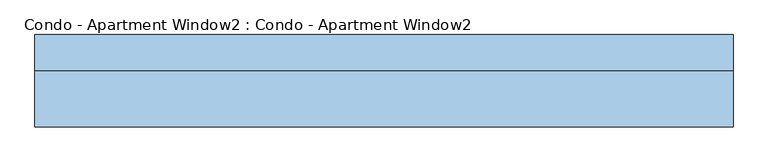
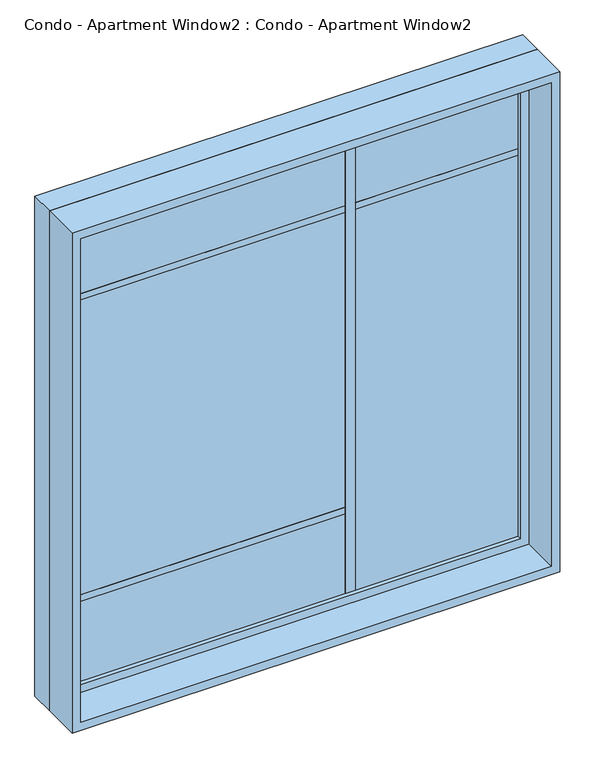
"""IFC4 building model written with IfcOpenShell, lengths in millimetres: window geometry, Condo - Apartment Window2 : Condo - Apartment Window2."""

from ifc_helpers import new_model, si_unit, frame, origin, place, context, project, spatial, polyline, outline, extrude, source, transform, mapped, element, save


def condo_apartment_window2_condo_apartment_window2_92945ac6(model_context):
    return source(origin(), model_context, "Body", "SweptSolid", [
        extrude(outline(polyline([(165.1, 66.675), (203.2, 66.675), (203.2, 41.275), (165.1, 41.275), (165.1, 66.675)])), frame((0.0, 0.0, 660.4), z_axis=(0.0, 0.0, 1.0), x_axis=(1.0, 0.0, 0.0)), (0.0, 0.0, 1.0), 1854.2),
        extrude(outline(polyline([(-889.0, 66.675), (165.1, 66.675), (165.1, 41.275), (-889.0, 41.275), (-889.0, 66.675)])), frame((0.0, 0.0, 977.9), z_axis=(0.0, 0.0, 1.0), x_axis=(1.0, 0.0, 0.0)), (0.0, 0.0, 1.0), 25.4),
        extrude(outline(polyline([(-889.0, 66.675), (165.1, 66.675), (165.1, 41.275), (-889.0, 41.275), (-889.0, 66.675)])), frame((0.0, 0.0, 2171.7), z_axis=(0.0, 0.0, 1.0), x_axis=(1.0, 0.0, 0.0)), (0.0, 0.0, 1.0), 25.4),
        extrude(outline(polyline([(203.2, 66.675), (812.8, 66.675), (812.8, 41.275), (203.2, 41.275), (203.2, 66.675)])), frame((0.0, 0.0, 2171.7), z_axis=(0.0, 0.0, 1.0), x_axis=(1.0, 0.0, 0.0)), (0.0, 0.0, 1.0), 25.4),
        extrude(outline(polyline([(812.8, 41.275), (-889.0, 41.275), (-889.0, 53.975), (812.8, 53.975), (812.8, 41.275)])), frame((0.0, 0.0, 660.4), z_axis=(0.0, 0.0, 1.0), x_axis=(1.0, 0.0, 0.0)), (0.0, 0.0, 1.0), 1854.2),
        extrude(outline(polyline([(2559.05, -933.45), (615.95, -933.45), (615.95, 857.25), (2559.05, 857.25), (2559.05, -933.45)]), holes=[polyline([(2514.6, -889.0), (2514.6, 812.8), (660.4, 812.8), (660.4, -889.0), (2514.6, -889.0)])]), frame((0.0, 25.4, 0.0), z_axis=(0.0, 1.0, 0.0), x_axis=(0.0, 0.0, 1.0)), (0.0, 0.0, 1.0), 44.45),
        extrude(outline(polyline([(2578.1, -952.5), (596.9, -952.5), (596.9, 876.3), (2578.1, 876.3), (2578.1, -952.5)]), holes=[polyline([(2546.35, -920.75), (2546.35, 844.55), (628.65, 844.55), (628.65, -920.75), (2546.35, -920.75)])]), frame((0.0, -120.65, 0.0), z_axis=(0.0, 1.0, 0.0), x_axis=(0.0, 0.0, 1.0)), (0.0, 0.0, 1.0), 146.05),
        extrude(outline(polyline([(2578.1, 876.3), (2578.1, -952.5), (596.9, -952.5), (596.9, 876.3), (2578.1, 876.3)]), holes=[polyline([(2559.05, 857.25), (615.95, 857.25), (615.95, -933.45), (2559.05, -933.45), (2559.05, 857.25)])]), frame((0.0, 25.4, 0.0), z_axis=(0.0, 1.0, 0.0), x_axis=(0.0, 0.0, 1.0)), (0.0, 0.0, 1.0), 95.25),
    ])


if __name__ == "__main__":
    model = new_model("IFC4")
    model_context = context("Model", 3, world=origin())
    ifc_project = project(units=[si_unit("LENGTHUNIT", "METRE", prefix="MILLI")], contexts=[model_context])
    site = spatial("IfcSite", under=ifc_project)
    building = spatial("IfcBuilding", under=site)
    placement = place(None, origin())
    condo_apartment_window2_condo_apartment_window2_shape = condo_apartment_window2_condo_apartment_window2_92945ac6(model_context)
    element("IfcWindow", 1, ObjectType="Condo - Apartment Window2 : Condo - Apartment Window2", at=placement, inside=building, context=model_context, shape_type="MappedRepresentation", body=[
        mapped(condo_apartment_window2_condo_apartment_window2_shape, transform((0.0, 0.0, 0.0), x_axis=(1.0, 0.0, 0.0), y_axis=(0.0, 1.0, 0.0), z_axis=(0.0, 0.0, 1.0))),
    ])
    save(model, "model.ifc")
